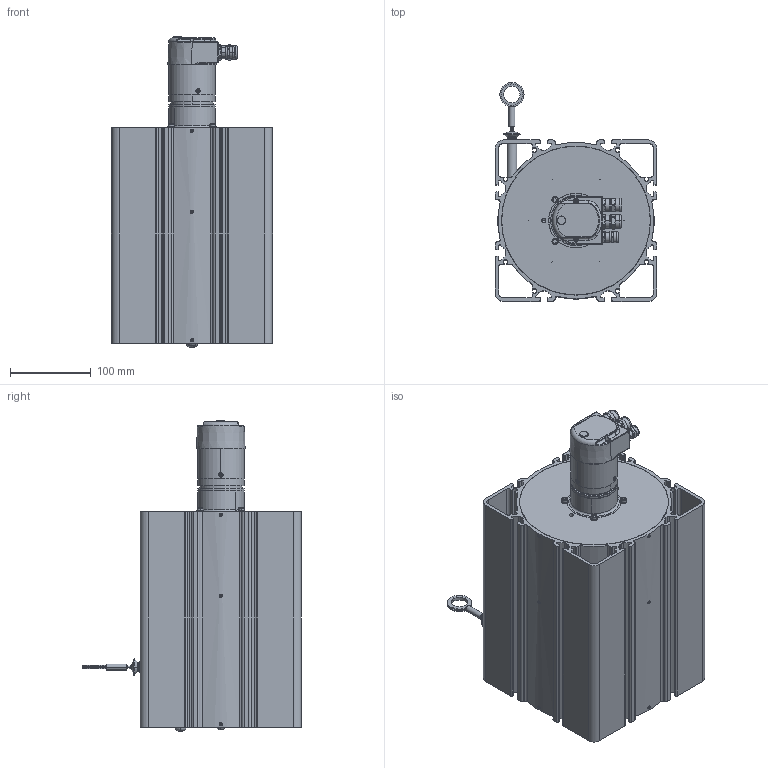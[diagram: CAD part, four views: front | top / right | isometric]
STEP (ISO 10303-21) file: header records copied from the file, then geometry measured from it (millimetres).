
FILE_DESCRIPTION((''),'2;1');
FILE_NAME('WDS-30000-P200-BH-PB_02_ASM','2024-05-29T07:39:15',('15000597'),(''),'CREO PARAMETRIC BY PTC INC, 2022164','CREO PARAMETRIC BY PTC INC, 2022164','');
FILE_SCHEMA(('AUTOMOTIVE_DESIGN { 1 0 10303 214 1 1 1 1 }'));
Products named in the file (44): TELESO_SENZORU_30M_P200_AF0; HRIDEL_MOTORU_30-40M_P200_AF0; BOCNICE_VNEJSI_P200_AF0; LOZISKO_6000_10X26X8_AF1; PREDNI_STENA_P200_DIRA_S_POJIST_AF0; SROUB_ISO7380_COC_HEX_C_M5X10_AF0; TRUBKA_PRUCHODKY_P200_AF0; PRUCHODKA_P200; GUMOVY_VLNOVEC; STIRATKO_LANKO_FORMA_0I8; DUTY_NYT_A_3X10; GP_7I5X2I0X25_EXT_EPDM60; LANKO_7X7_0I63_0I8_AF0; OKO_LANKA_TRE; CU_HULSE_2X1I4X5_AF0; SPOJKA_GS5_PR6_2I1_AF0; KOLIK_PRUZNY_2X8_AF0; SROUB_ISO4026_STAV_HEX_M4X4_AF0; SROUB_ISO4026_STAV_HEX_M4X4_AF1; SROUB_ISO4026_STAV_HEX_M4X4_AF2; SROUB_ISO4026_STAV_HEX_M4X4_AF3; SROUB_ISO4026_STAV_HEX_M4X4_AF4; SROUB_ISO4026_STAV_HEX_M4X4_AF5; SROUB_ISO4026_STAV_HEX_M4X4_AF6; SROUB_ISO4026_STAV_HEX_M4X4_AF7; SROUB_ISO4026_STAV_HEX_M4X4_AF8; SROUB_ISO4026_STAV_HEX_M4X4_AF9; SROUB_ISO4026_STAV_HEX_M4X4_AF10; SROUB_ISO4026_STAV_HEX_M4X4_AF11; PRIRUBA_SYNCHRO_P96_P200_AF0; PODLOZKA_M4_VEJIROVA_AF3; PODLOZKA_M4_VEJIROVA_AF4; PODLOZKA_M4_VEJIROVA_AF5; PODLOZKA_M4_VEJIROVA_AF6; SROUB_ISO4762_VALC_HEX_M4X6_AF0; SROUB_ISO4762_VALC_HEX_M4X6_AF1; SROUB_ISO4762_VALC_HEX_M4X6_AF2; SROUB_ISO4762_VALC_HEX_M4X6_AF3; SPOJKA_KRIZ_AF0; SPOJKA_GS5_PR6_AF0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
Assembly tree (43 placements, depth 2):
  WDS-30000-P200-BH-PB_02_ASM
    TELESO_SENZORU_30M_P200_AF0
    HRIDEL_MOTORU_30-40M_P200_AF0
    BOCNICE_VNEJSI_P200_AF0
    LOZISKO_6000_10X26X8_AF1
    PREDNI_STENA_P200_DIRA_S_POJIST_AF0
    SROUB_ISO7380_COC_HEX_C_M5X10_AF0
    TRUBKA_PRUCHODKY_P200_AF0
    PRUCHODKA_P200
    GUMOVY_VLNOVEC
    STIRATKO_LANKO_FORMA_0I8
    DUTY_NYT_A_3X10
    GP_7I5X2I0X25_EXT_EPDM60
    LANKO_7X7_0I63_0I8_AF0
    OKO_LANKA_TRE
    CU_HULSE_2X1I4X5_AF0
    SPOJKA_GS5_PR6_2I1_AF0
    KOLIK_PRUZNY_2X8_AF0
    SROUB_ISO4026_STAV_HEX_M4X4_AF0
    SROUB_ISO4026_STAV_HEX_M4X4_AF1
    SROUB_ISO4026_STAV_HEX_M4X4_AF2
    SROUB_ISO4026_STAV_HEX_M4X4_AF3
    SROUB_ISO4026_STAV_HEX_M4X4_AF4
    SROUB_ISO4026_STAV_HEX_M4X4_AF5
    SROUB_ISO4026_STAV_HEX_M4X4_AF6
    SROUB_ISO4026_STAV_HEX_M4X4_AF7
    SROUB_ISO4026_STAV_HEX_M4X4_AF8
    SROUB_ISO4026_STAV_HEX_M4X4_AF9
    SROUB_ISO4026_STAV_HEX_M4X4_AF10
    SROUB_ISO4026_STAV_HEX_M4X4_AF11
    PRIRUBA_SYNCHRO_P96_P200_AF0
    PODLOZKA_M4_VEJIROVA_AF3
    PODLOZKA_M4_VEJIROVA_AF4
    PODLOZKA_M4_VEJIROVA_AF5
    PODLOZKA_M4_VEJIROVA_AF6
    SROUB_ISO4762_VALC_HEX_M4X6_AF0
    SROUB_ISO4762_VALC_HEX_M4X6_AF1
    SROUB_ISO4762_VALC_HEX_M4X6_AF2
    SROUB_ISO4762_VALC_HEX_M4X6_AF3
    SPOJKA_KRIZ_AF0
    SPOJKA_GS5_PR6_AF0
    SROUB_ISO4029_STAV_HEX_M3X3_AF0
    SROUB_ISO7380_COC_HEX_M8X8_AF0
    BAU_SYNCHRO_PB_EN580CIMLSU06GH2
Bounding box: 200 x 271.7 x 384.8 mm (x, y, z)
Volume: 1655755.2 mm3; surface area: 819491.1 mm2
Topology: 34 solids, 72 shells, 1663 faces, 4297 edges, 2741 vertices
Faces by surface type: plane 641, cylinder 595, cone 252, torus 138, bspline 17, revolution 16, sphere 4
Entity records: 76502 total; most frequent: CARTESIAN_POINT 18812, DIRECTION 8870, ORIENTED_EDGE 8334, PRESENTATION_STYLE_ASSIGNMENT 4457, STYLED_ITEM 4457, EDGE_CURVE 4261, CURVE_STYLE 4255, AXIS2_PLACEMENT_3D 3537
